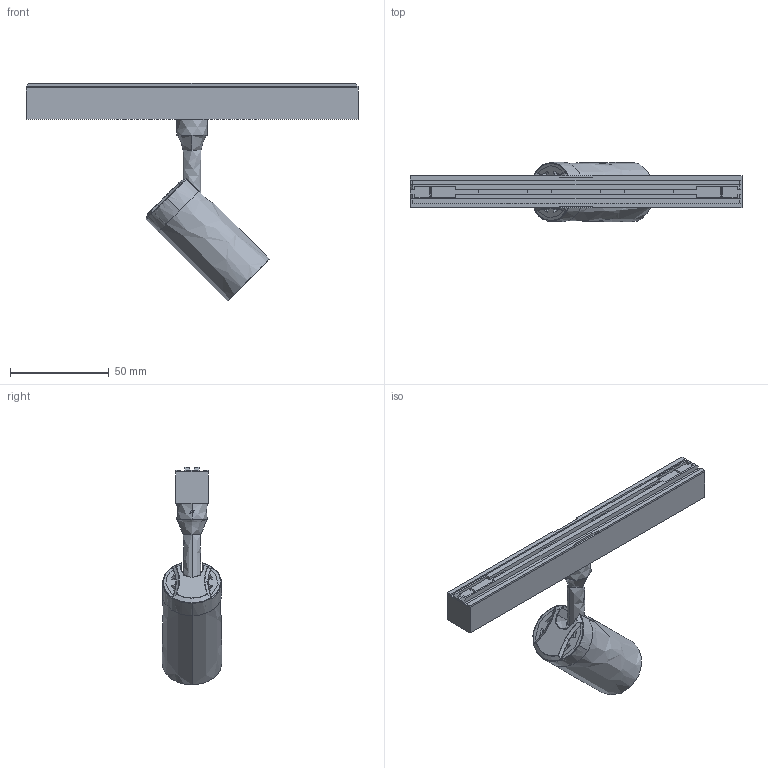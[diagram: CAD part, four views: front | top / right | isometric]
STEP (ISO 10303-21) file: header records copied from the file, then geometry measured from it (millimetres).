
FILE_DESCRIPTION(/* description */ (''),/* implementation_level */ '2;1');
FILE_NAME(/* name */ 'B433__.003',/* time_stamp */ '2024-08-30T10:59:33+02:00',/* author */ (''),/* organization */ (''),/* preprocessor_version */ 'ST-DEVELOPER v16.5',/* originating_system */ '',/* authorisation */ '');
FILE_SCHEMA (('AUTOMOTIVE_DESIGN'));
Length unit declared in the file: millimetre
Products named in the file (1): Document
Bounding box: 168 x 30 x 110.27 mm (x, y, z)
Volume: 56667.5 mm3; surface area: 42056.5 mm2
Topology: 8 solids, 9 shells, 307 faces, 779 edges, 469 vertices
Faces by surface type: bspline 191, plane 116
Entity records: 13404 total; most frequent: CARTESIAN_POINT 8822, ORIENTED_EDGE 1528, EDGE_CURVE 770, VERTEX_POINT 469, B_SPLINE_CURVE_WITH_KNOTS 443, EDGE_LOOP 329, ADVANCED_FACE 307, FACE_OUTER_BOUND 307
